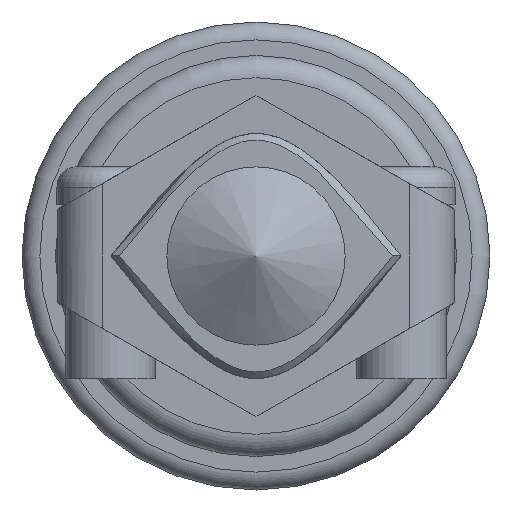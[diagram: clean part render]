
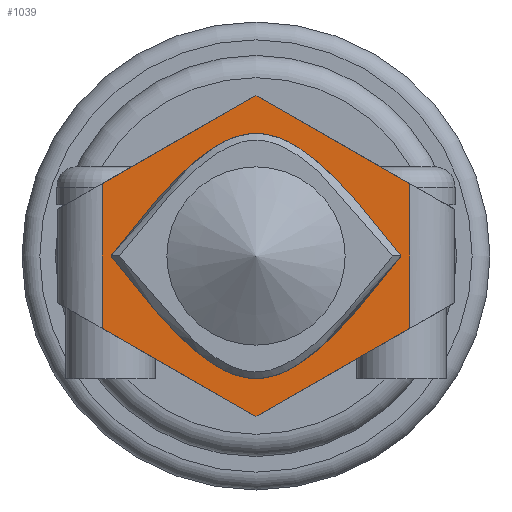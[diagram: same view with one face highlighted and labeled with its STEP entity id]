
A CAD part, left-side view. The second image highlights one B-rep face of the part: STEP entity #1039.
In plain terms, the highlighted planar face has unit normal (-1, 0, 0).
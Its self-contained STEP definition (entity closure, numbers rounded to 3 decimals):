
#96 = VERTEX_POINT ( 'NONE', #1453 ) ;
#101 = CARTESIAN_POINT ( 'NONE',  ( 111.691, 45.761, 55.753 ) ) ;
#136 = ORIENTED_EDGE ( 'NONE', *, *, #1196, .F. ) ;
#185 = ORIENTED_EDGE ( 'NONE', *, *, #2403, .T. ) ;
#227 = DIRECTION ( 'NONE',  ( 0., 0.868, -0.497 ) ) ;
#235 = VECTOR ( 'NONE', #2153, 1000. ) ;
#262 = LINE ( 'NONE', #405, #1169 ) ;
#322 = EDGE_CURVE ( 'NONE', #1202, #2377, #2351, .T. ) ;
#325 = CARTESIAN_POINT ( 'NONE',  ( 111.691, 54.661, 50.653 ) ) ;
#405 = CARTESIAN_POINT ( 'NONE',  ( 111.691, 47.761, 59.953 ) ) ;
#442 = DIRECTION ( 'NONE',  ( 0., 0., 1. ) ) ;
#459 = DIRECTION ( 'NONE',  ( 0., 0.868, 0.497 ) ) ;
#463 = EDGE_CURVE ( 'NONE', #2412, #767, #1379, .T. ) ;
#485 = VERTEX_POINT ( 'NONE', #1493 ) ;
#490 = VERTEX_POINT ( 'NONE', #2080 ) ;
#624 = PLANE ( 'NONE',  #1109 ) ;
#652 = CARTESIAN_POINT ( 'NONE',  ( 111.691, 45.761, 59.953 ) ) ;
#700 = CARTESIAN_POINT ( 'NONE',  ( 111.691, 58.994, 55.103 ) ) ;
#745 = VECTOR ( 'NONE', #1789, 1000. ) ;
#767 = VERTEX_POINT ( 'NONE', #2226 ) ;
#788 = LINE ( 'NONE', #1819, #1025 ) ;
#807 = CARTESIAN_POINT ( 'NONE',  ( 111.691, 50.327, 60.603 ) ) ;
#836 = CARTESIAN_POINT ( 'NONE',  ( 111.691, 54.661, 65.053 ) ) ;
#937 = B_SPLINE_CURVE_WITH_KNOTS ( 'NONE', 3,
 ( #1802, #807, #1568, #2312, #2128 ),
 .UNSPECIFIED., .F., .F.,
 ( 4, 1, 4 ),
 ( 0., 0.5, 1. ),
 .UNSPECIFIED. ) ;
#985 = FACE_OUTER_BOUND ( 'NONE', #2074, .T. ) ;
#1025 = VECTOR ( 'NONE', #227, 1000. ) ;
#1027 = CARTESIAN_POINT ( 'NONE',  ( 111.691, 61.561, 59.953 ) ) ;
#1039 = ADVANCED_FACE ( 'NONE', ( #985, #1399 ), #624, .F. ) ;
#1109 = AXIS2_PLACEMENT_3D ( 'NONE', #2138, #1946, #442 ) ;
#1132 = VECTOR ( 'NONE', #1250, 1000. ) ;
#1169 = VECTOR ( 'NONE', #1544, 1000. ) ;
#1196 = EDGE_CURVE ( 'NONE', #767, #2412, #937, .T. ) ;
#1202 = VERTEX_POINT ( 'NONE', #325 ) ;
#1238 = ORIENTED_EDGE ( 'NONE', *, *, #322, .T. ) ;
#1245 = ORIENTED_EDGE ( 'NONE', *, *, #1967, .T. ) ;
#1250 = DIRECTION ( 'NONE',  ( 0., -0.868, -0.497 ) ) ;
#1252 = CARTESIAN_POINT ( 'NONE',  ( 111.691, 61.161, 57.853 ) ) ;
#1322 = ORIENTED_EDGE ( 'NONE', *, *, #463, .F. ) ;
#1379 = B_SPLINE_CURVE_WITH_KNOTS ( 'NONE', 3,
 ( #1840, #700, #1462, #2216, #2028 ),
 .UNSPECIFIED., .F., .F.,
 ( 4, 1, 4 ),
 ( 0., 0.5, 1. ),
 .UNSPECIFIED. ) ;
#1399 = FACE_BOUND ( 'NONE', #2246, .T. ) ;
#1453 = CARTESIAN_POINT ( 'NONE',  ( 111.691, 61.561, 61.099 ) ) ;
#1462 = CARTESIAN_POINT ( 'NONE',  ( 111.691, 54.661, 49.603 ) ) ;
#1493 = CARTESIAN_POINT ( 'NONE',  ( 111.691, 47.761, 61.099 ) ) ;
#1544 = DIRECTION ( 'NONE',  ( 0., 0., 1. ) ) ;
#1555 = ORIENTED_EDGE ( 'NONE', *, *, #2007, .T. ) ;
#1568 = CARTESIAN_POINT ( 'NONE',  ( 111.691, 54.661, 66.103 ) ) ;
#1729 = EDGE_CURVE ( 'NONE', #2377, #485, #262, .T. ) ;
#1789 = DIRECTION ( 'NONE',  ( 0., 0., -1. ) ) ;
#1793 = CARTESIAN_POINT ( 'NONE',  ( 111.691, 63.561, 55.753 ) ) ;
#1802 = CARTESIAN_POINT ( 'NONE',  ( 111.691, 48.161, 57.853 ) ) ;
#1819 = CARTESIAN_POINT ( 'NONE',  ( 111.691, 63.561, 59.953 ) ) ;
#1837 = VERTEX_POINT ( 'NONE', #836 ) ;
#1840 = CARTESIAN_POINT ( 'NONE',  ( 111.691, 61.161, 57.853 ) ) ;
#1932 = ORIENTED_EDGE ( 'NONE', *, *, #2221, .T. ) ;
#1946 = DIRECTION ( 'NONE',  ( 1., 0., 0. ) ) ;
#1954 = CARTESIAN_POINT ( 'NONE',  ( 111.691, 47.761, 54.607 ) ) ;
#1967 = EDGE_CURVE ( 'NONE', #490, #1202, #2379, .T. ) ;
#2007 = EDGE_CURVE ( 'NONE', #485, #1837, #2353, .T. ) ;
#2028 = CARTESIAN_POINT ( 'NONE',  ( 111.691, 48.161, 57.853 ) ) ;
#2074 = EDGE_LOOP ( 'NONE', ( #1238, #2209, #1555, #185, #1932, #1245 ) ) ;
#2080 = CARTESIAN_POINT ( 'NONE',  ( 111.691, 61.561, 54.607 ) ) ;
#2128 = CARTESIAN_POINT ( 'NONE',  ( 111.691, 61.161, 57.853 ) ) ;
#2138 = CARTESIAN_POINT ( 'NONE',  ( 111.691, 63.561, 59.953 ) ) ;
#2153 = DIRECTION ( 'NONE',  ( 0., -0.868, 0.497 ) ) ;
#2209 = ORIENTED_EDGE ( 'NONE', *, *, #1729, .T. ) ;
#2216 = CARTESIAN_POINT ( 'NONE',  ( 111.691, 50.327, 55.103 ) ) ;
#2221 = EDGE_CURVE ( 'NONE', #96, #490, #2340, .T. ) ;
#2226 = CARTESIAN_POINT ( 'NONE',  ( 111.691, 48.161, 57.853 ) ) ;
#2246 = EDGE_LOOP ( 'NONE', ( #1322, #136 ) ) ;
#2312 = CARTESIAN_POINT ( 'NONE',  ( 111.691, 58.994, 60.603 ) ) ;
#2314 = VECTOR ( 'NONE', #459, 1000. ) ;
#2340 = LINE ( 'NONE', #1027, #745 ) ;
#2351 = LINE ( 'NONE', #101, #235 ) ;
#2353 = LINE ( 'NONE', #652, #2314 ) ;
#2377 = VERTEX_POINT ( 'NONE', #1954 ) ;
#2379 = LINE ( 'NONE', #1793, #1132 ) ;
#2403 = EDGE_CURVE ( 'NONE', #1837, #96, #788, .T. ) ;
#2412 = VERTEX_POINT ( 'NONE', #1252 ) ;
